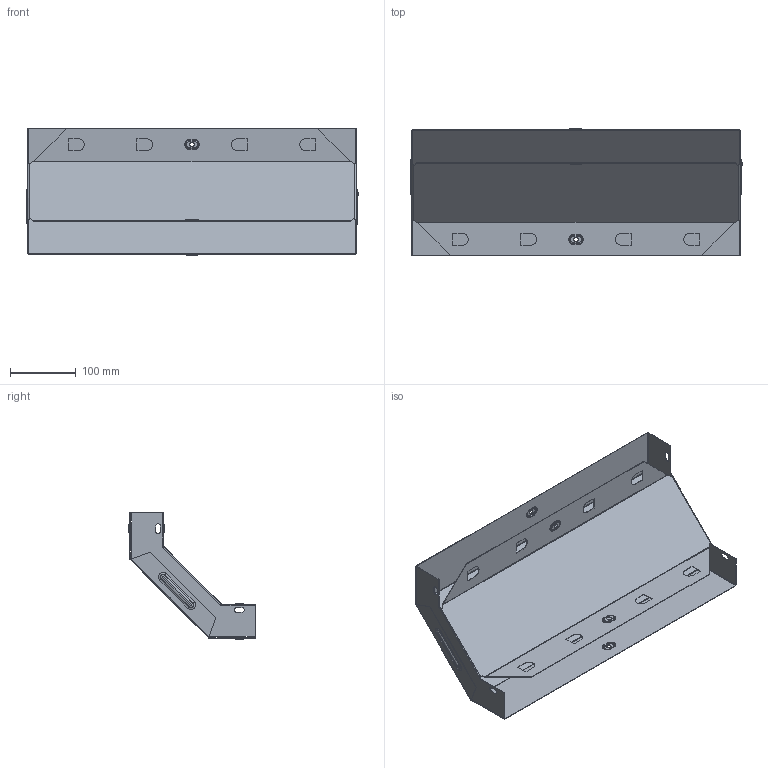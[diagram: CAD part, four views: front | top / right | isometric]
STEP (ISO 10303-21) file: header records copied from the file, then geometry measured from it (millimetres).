
FILE_DESCRIPTION (( 'STEP AP214' ), '1' );
FILE_NAME ('vo9050500_捘.STEP', '2019-06-10T09:08:59', ( '砐錪賧瘔蠈錪 Windows' ), ( '' ), 'SwSTEP 2.0', 'SolidWorks 2018', '' );
FILE_SCHEMA (( 'AUTOMOTIVE_DESIGN' ));
Length unit declared in the file: millimetre
Products named in the file (1): vo9050500_捘
Bounding box: 505.6 x 192.3 x 192.3 mm (x, y, z)
Volume: 234750.6 mm3; surface area: 590606 mm2
Topology: 2 solids, 2 shells, 294 faces, 702 edges, 428 vertices
Faces by surface type: plane 116, cylinder 106, torus 64, bspline 8
Entity records: 8725 total; most frequent: CARTESIAN_POINT 1673, DIRECTION 1536, ORIENTED_EDGE 1404, EDGE_CURVE 702, AXIS2_PLACEMENT_3D 579, VERTEX_POINT 428, VECTOR 378, LINE 378
